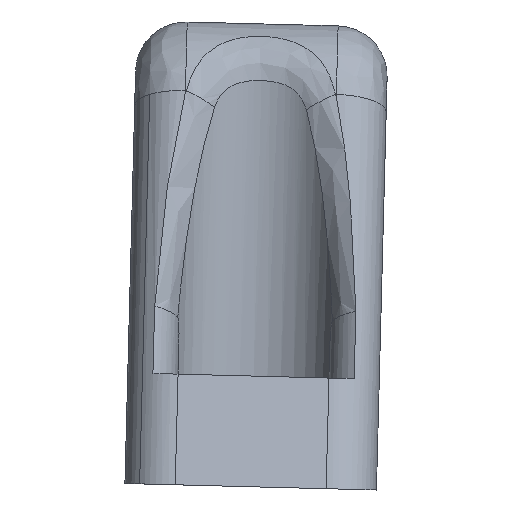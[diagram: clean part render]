
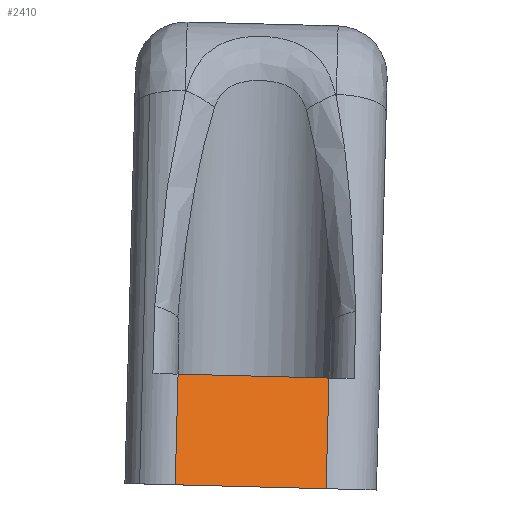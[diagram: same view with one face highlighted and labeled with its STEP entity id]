
A CAD part, left-side view. The second image highlights one B-rep face of the part: STEP entity #2410.
In plain terms, the highlighted planar face has unit normal (-0.948, -0.008, 0.318) as drawn and (0, -0.948, 0.318) by its records, which use the part's own axes.
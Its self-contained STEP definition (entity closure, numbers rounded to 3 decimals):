
#941=CARTESIAN_POINT('',(7.5,-72.765,-19.489));
#942=VERTEX_POINT('',#941);
#950=CARTESIAN_POINT('',(-7.5,-72.765,-19.489));
#951=VERTEX_POINT('',#950);
#952=CARTESIAN_POINT('',(7.5,-72.765,-19.489));
#953=DIRECTION('',(-1.0,0.0,0.0));
#954=VECTOR('',#953,15.);
#955=LINE('',#952,#954);
#956=EDGE_CURVE('',#942,#951,#955,.T.);
#1476=CARTESIAN_POINT('',(-7.5,-69.071,-8.489));
#1477=VERTEX_POINT('',#1476);
#1478=CARTESIAN_POINT('',(-7.5,-69.071,-8.489));
#1479=DIRECTION('',(0.0,-0.318,-0.948));
#1480=VECTOR('',#1479,11.603);
#1481=LINE('',#1478,#1480);
#1482=EDGE_CURVE('',#1477,#951,#1481,.T.);
#2376=CARTESIAN_POINT('',(7.5,-69.071,-8.489));
#2377=VERTEX_POINT('',#2376);
#2385=CARTESIAN_POINT('',(7.5,-69.071,-8.489));
#2386=DIRECTION('',(0.0,-0.318,-0.948));
#2387=VECTOR('',#2386,11.603);
#2388=LINE('',#2385,#2387);
#2389=EDGE_CURVE('',#2377,#942,#2388,.T.);
#2394=CARTESIAN_POINT('',(12.5,-57.321,26.511));
#2395=DIRECTION('',(0.0,-0.948,0.318));
#2396=DIRECTION('',(0.0,-0.318,-0.948));
#2397=AXIS2_PLACEMENT_3D('',#2394,#2395,#2396);
#2398=PLANE('',#2397);
#2399=ORIENTED_EDGE('',*,*,#1482,.T.);
#2400=ORIENTED_EDGE('',*,*,#956,.F.);
#2401=ORIENTED_EDGE('',*,*,#2389,.F.);
#2402=CARTESIAN_POINT('',(-7.5,-69.071,-8.489));
#2403=DIRECTION('',(1.0,0.0,0.0));
#2404=VECTOR('',#2403,15.);
#2405=LINE('',#2402,#2404);
#2406=EDGE_CURVE('',#1477,#2377,#2405,.T.);
#2407=ORIENTED_EDGE('',*,*,#2406,.F.);
#2408=EDGE_LOOP('',(#2399,#2400,#2401,#2407));
#2409=FACE_OUTER_BOUND('',#2408,.T.);
#2410=ADVANCED_FACE('',(#2409),#2398,.T.);
